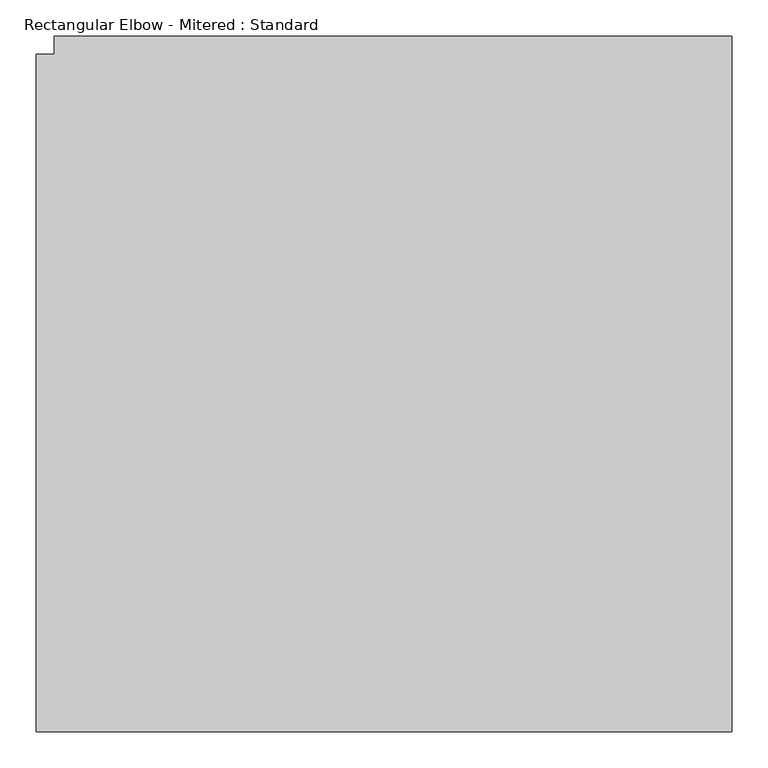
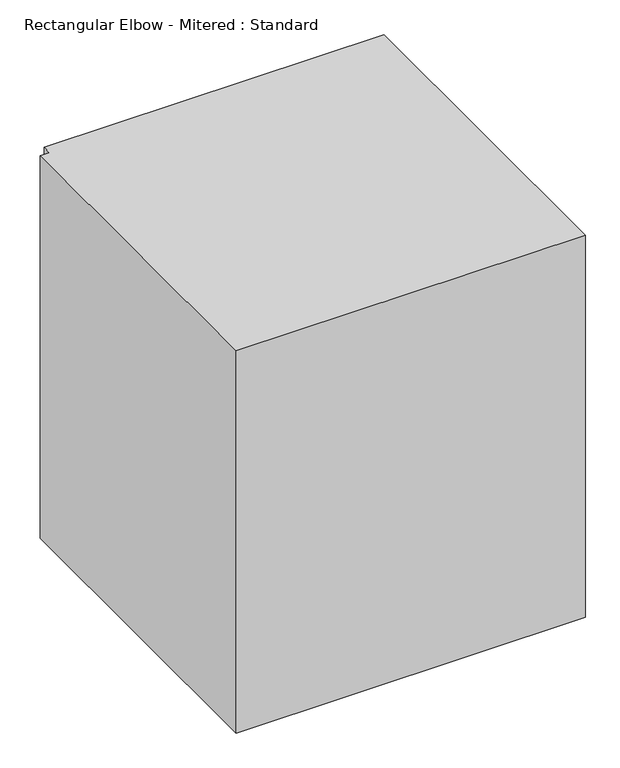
"""IFC4 building model written with IfcOpenShell, lengths in millimetres: duct fitting geometry, Rectangular Elbow - Mitered : Standard."""

from ifc_helpers import new_model, si_unit, frame, origin, place, context, project, spatial, polyline, outline, extrude, source, transform, mapped, element, save


def rectangular_elbow_mitered_standard_1b68add7(model_context):
    return source(origin(), model_context, "Body", "SweptSolid", [
        extrude(outline(polyline([(-495.3, -469.9), (-495.3, 469.9), (-469.9, 469.9), (-469.9, 495.3), (469.9, 495.3), (469.9, -469.9), (-495.3, -469.9)])), frame((0.0, 0.0, -558.8), z_axis=(0.0, 0.0, 1.0), x_axis=(1.0, 0.0, 0.0)), (0.0, 0.0, 1.0), 1117.6),
    ])


if __name__ == "__main__":
    model = new_model("IFC4")
    model_context = context("Model", 3, world=origin())
    ifc_project = project(units=[si_unit("LENGTHUNIT", "METRE", prefix="MILLI")], contexts=[model_context])
    site = spatial("IfcSite", under=ifc_project)
    building = spatial("IfcBuilding", under=site)
    placement = place(None, origin())
    rectangular_elbow_mitered_standard_shape = rectangular_elbow_mitered_standard_1b68add7(model_context)
    element("IfcDuctFitting", 1, ObjectType="Rectangular Elbow - Mitered : Standard", at=placement, inside=building, context=model_context, shape_type="MappedRepresentation", body=[
        mapped(rectangular_elbow_mitered_standard_shape, transform((0.0, 0.0, 0.0), x_axis=(1.0, 0.0, 0.0), y_axis=(0.0, 1.0, 0.0), z_axis=(0.0, 0.0, 1.0))),
    ])
    save(model, "model.ifc")
